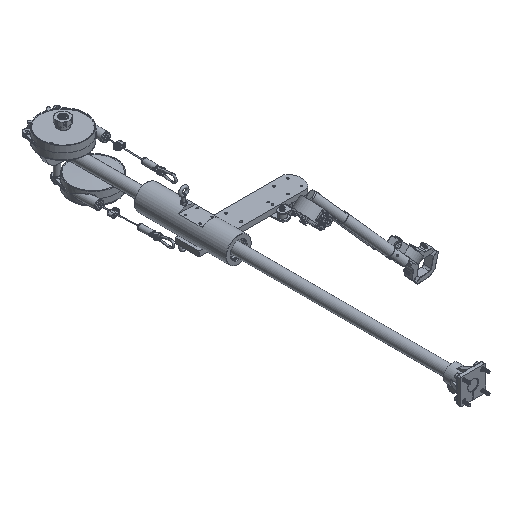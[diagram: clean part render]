
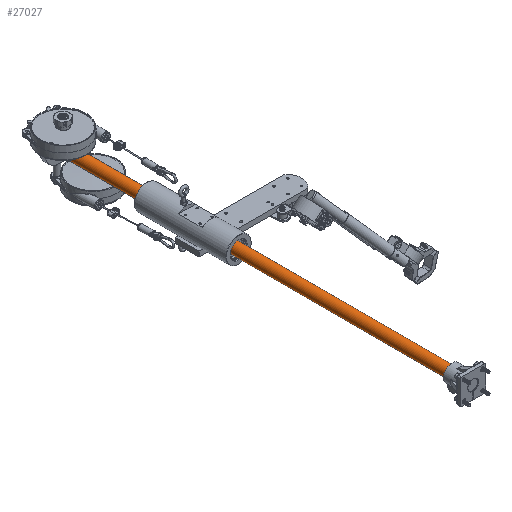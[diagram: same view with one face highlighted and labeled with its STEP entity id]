
A CAD part, isometric view. The second image highlights one B-rep face of the part: STEP entity #27027.
In plain terms, the highlighted cylindrical face has radius 12.5 mm (diameter 25 mm), a full revolution.
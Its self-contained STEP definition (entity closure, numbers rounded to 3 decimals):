
#2185 = DIRECTION ( 'NONE',  ( 0., 1., 0. ) ) ;
#3967 = DIRECTION ( 'NONE',  ( 0., -1., 0. ) ) ;
#3982 = VERTEX_POINT ( 'NONE', #6816 ) ;
#4081 = EDGE_LOOP ( 'NONE', ( #10196 ) ) ;
#4634 = FACE_OUTER_BOUND ( 'NONE', #4081, .T. ) ;
#5709 = DIRECTION ( 'NONE',  ( 0., -1., 0. ) ) ;
#6816 = CARTESIAN_POINT ( 'NONE',  ( -4.958, 980., -11.475 ) ) ;
#10196 = ORIENTED_EDGE ( 'NONE', *, *, #86009, .T. ) ;
#13343 = CIRCLE ( 'NONE', #34323, 12.5 ) ;
#17061 = CARTESIAN_POINT ( 'NONE',  ( 0., 981., 0. ) ) ;
#25654 = EDGE_LOOP ( 'NONE', ( #32649 ) ) ;
#26990 = AXIS2_PLACEMENT_3D ( 'NONE', #17061, #3967, #31348 ) ;
#27027 = ADVANCED_FACE ( 'NONE', ( #38743, #4634 ), #66452, .T. ) ;
#31348 = DIRECTION ( 'NONE',  ( 0.397, 0., 0.918 ) ) ;
#32649 = ORIENTED_EDGE ( 'NONE', *, *, #67439, .T. ) ;
#33060 = CIRCLE ( 'NONE', #35179, 12.5 ) ;
#34323 = AXIS2_PLACEMENT_3D ( 'NONE', #42967, #2185, #49837 ) ;
#35179 = AXIS2_PLACEMENT_3D ( 'NONE', #46489, #5709, #53335 ) ;
#38743 = FACE_OUTER_BOUND ( 'NONE', #25654, .T. ) ;
#42967 = CARTESIAN_POINT ( 'NONE',  ( 0., 2., 0. ) ) ;
#46489 = CARTESIAN_POINT ( 'NONE',  ( 0., 980., 0. ) ) ;
#48773 = VERTEX_POINT ( 'NONE', #71490 ) ;
#49837 = DIRECTION ( 'NONE',  ( -0.397, 0., -0.918 ) ) ;
#53335 = DIRECTION ( 'NONE',  ( -0.397, 0., -0.918 ) ) ;
#66452 = CYLINDRICAL_SURFACE ( 'NONE', #26990, 12.5 ) ;
#67439 = EDGE_CURVE ( 'NONE', #48773, #48773, #13343, .T. ) ;
#71490 = CARTESIAN_POINT ( 'NONE',  ( -4.958, 2., -11.475 ) ) ;
#86009 = EDGE_CURVE ( 'NONE', #3982, #3982, #33060, .T. ) ;
